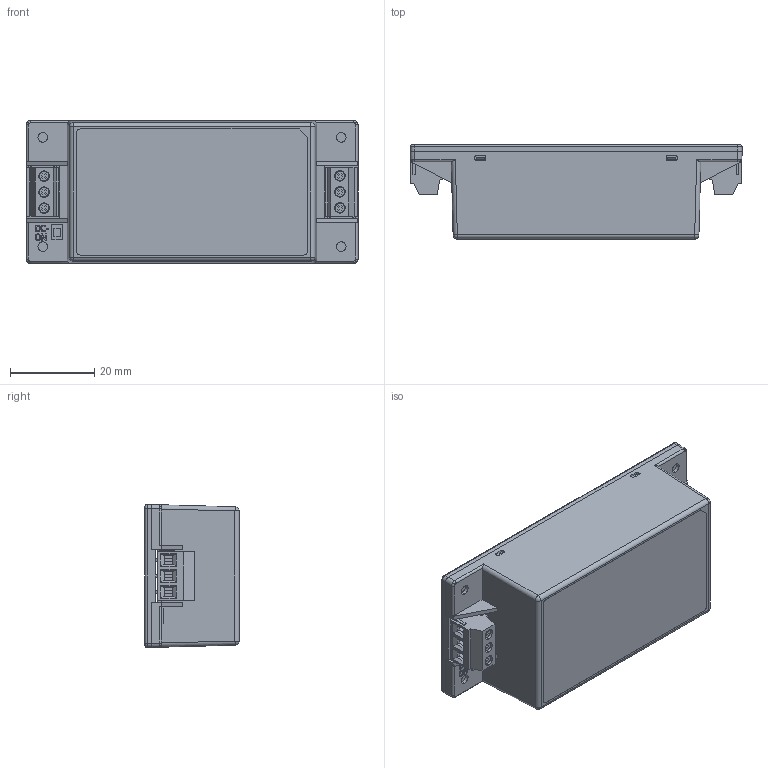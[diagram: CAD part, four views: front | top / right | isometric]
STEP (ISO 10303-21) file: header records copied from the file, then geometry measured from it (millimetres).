
FILE_DESCRIPTION (( 'STEP AP203' ), '1' );
FILE_NAME ('MKWI10C_MKA10C.STEP', '2018-02-06T05:39:50', ( 'SuperXP' ), ( 'mychat' ), 'SwSTEP 2.0', 'SolidWorks 2009', '' );
FILE_SCHEMA (( 'CONFIG_CONTROL_DESIGN' ));
Products named in the file (1): MKWI10C_MKA10C
Bounding box: 79 x 22.4 x 34 mm (x, y, z)
Volume: 28391.7 mm3; surface area: 22639.5 mm2
Topology: 5 solids, 20 shells, 1108 faces, 2924 edges, 1912 vertices
Faces by surface type: plane 797, bspline 172, cylinder 127, sphere 8, torus 4
Entity records: 40989 total; most frequent: CARTESIAN_POINT 14625, ORIENTED_EDGE 5832, DIRECTION 4624, EDGE_CURVE 2916, VECTOR 2314, LINE 2314, VERTEX_POINT 1912, EDGE_LOOP 1210
